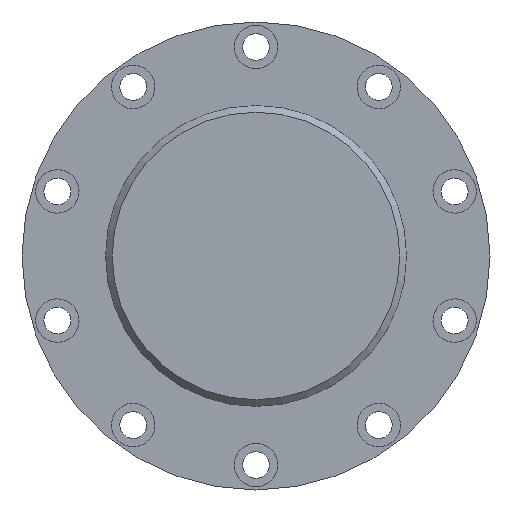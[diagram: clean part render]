
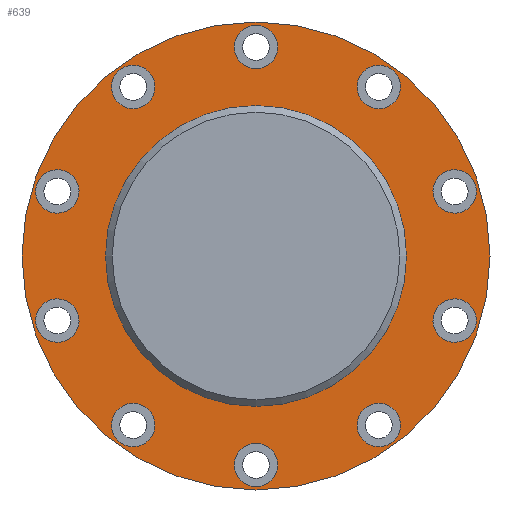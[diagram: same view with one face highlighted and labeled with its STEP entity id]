
A CAD part, front view. The second image highlights one B-rep face of the part: STEP entity #639.
In plain terms, the highlighted planar face has unit normal (0, -1, 0).
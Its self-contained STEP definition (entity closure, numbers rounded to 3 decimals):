
#100=FACE_BOUND('',#206,.T.);
#101=FACE_BOUND('',#207,.T.);
#102=FACE_BOUND('',#208,.T.);
#103=FACE_BOUND('',#209,.T.);
#104=FACE_BOUND('',#210,.T.);
#105=FACE_BOUND('',#211,.T.);
#106=FACE_BOUND('',#212,.T.);
#107=FACE_BOUND('',#213,.T.);
#108=FACE_BOUND('',#214,.T.);
#109=FACE_BOUND('',#215,.T.);
#110=FACE_BOUND('',#216,.T.);
#153=FACE_OUTER_BOUND('',#205,.T.);
#205=EDGE_LOOP('',(#532));
#206=EDGE_LOOP('',(#533));
#207=EDGE_LOOP('',(#534));
#208=EDGE_LOOP('',(#535));
#209=EDGE_LOOP('',(#536));
#210=EDGE_LOOP('',(#537));
#211=EDGE_LOOP('',(#538));
#212=EDGE_LOOP('',(#539));
#213=EDGE_LOOP('',(#540));
#214=EDGE_LOOP('',(#541));
#215=EDGE_LOOP('',(#542));
#216=EDGE_LOOP('',(#543));
#242=CIRCLE('',#675,6.5);
#246=CIRCLE('',#682,6.5);
#250=CIRCLE('',#689,6.5);
#254=CIRCLE('',#696,6.5);
#258=CIRCLE('',#703,6.5);
#262=CIRCLE('',#710,6.5);
#266=CIRCLE('',#717,6.5);
#270=CIRCLE('',#724,6.5);
#274=CIRCLE('',#731,6.5);
#278=CIRCLE('',#738,6.5);
#280=CIRCLE('',#742,70.);
#281=CIRCLE('',#743,45.);
#299=VERTEX_POINT('',#1001);
#303=VERTEX_POINT('',#1014);
#307=VERTEX_POINT('',#1027);
#311=VERTEX_POINT('',#1040);
#315=VERTEX_POINT('',#1053);
#319=VERTEX_POINT('',#1066);
#323=VERTEX_POINT('',#1079);
#327=VERTEX_POINT('',#1092);
#331=VERTEX_POINT('',#1105);
#335=VERTEX_POINT('',#1118);
#337=VERTEX_POINT('',#1126);
#338=VERTEX_POINT('',#1128);
#353=EDGE_CURVE('',#299,#299,#242,.T.);
#359=EDGE_CURVE('',#303,#303,#246,.T.);
#365=EDGE_CURVE('',#307,#307,#250,.T.);
#371=EDGE_CURVE('',#311,#311,#254,.T.);
#377=EDGE_CURVE('',#315,#315,#258,.T.);
#383=EDGE_CURVE('',#319,#319,#262,.T.);
#389=EDGE_CURVE('',#323,#323,#266,.T.);
#395=EDGE_CURVE('',#327,#327,#270,.T.);
#401=EDGE_CURVE('',#331,#331,#274,.T.);
#407=EDGE_CURVE('',#335,#335,#278,.T.);
#411=EDGE_CURVE('',#337,#337,#280,.T.);
#412=EDGE_CURVE('',#338,#338,#281,.T.);
#532=ORIENTED_EDGE('',*,*,#411,.T.);
#533=ORIENTED_EDGE('',*,*,#353,.T.);
#534=ORIENTED_EDGE('',*,*,#359,.T.);
#535=ORIENTED_EDGE('',*,*,#365,.T.);
#536=ORIENTED_EDGE('',*,*,#371,.T.);
#537=ORIENTED_EDGE('',*,*,#377,.T.);
#538=ORIENTED_EDGE('',*,*,#383,.T.);
#539=ORIENTED_EDGE('',*,*,#389,.T.);
#540=ORIENTED_EDGE('',*,*,#395,.T.);
#541=ORIENTED_EDGE('',*,*,#401,.T.);
#542=ORIENTED_EDGE('',*,*,#407,.T.);
#543=ORIENTED_EDGE('',*,*,#412,.F.);
#604=PLANE('',#741);
#639=ADVANCED_FACE('',(#153,#100,#101,#102,#103,#104,#105,#106,#107,#108,
#109,#110),#604,.T.);
#675=AXIS2_PLACEMENT_3D('',#1002,#780,#781);
#682=AXIS2_PLACEMENT_3D('',#1015,#796,#797);
#689=AXIS2_PLACEMENT_3D('',#1028,#812,#813);
#696=AXIS2_PLACEMENT_3D('',#1041,#828,#829);
#703=AXIS2_PLACEMENT_3D('',#1054,#844,#845);
#710=AXIS2_PLACEMENT_3D('',#1067,#860,#861);
#717=AXIS2_PLACEMENT_3D('',#1080,#876,#877);
#724=AXIS2_PLACEMENT_3D('',#1093,#892,#893);
#731=AXIS2_PLACEMENT_3D('',#1106,#908,#909);
#738=AXIS2_PLACEMENT_3D('',#1119,#924,#925);
#741=AXIS2_PLACEMENT_3D('',#1125,#932,#933);
#742=AXIS2_PLACEMENT_3D('',#1127,#934,#935);
#743=AXIS2_PLACEMENT_3D('',#1129,#936,#937);
#780=DIRECTION('center_axis',(0.,1.,0.));
#781=DIRECTION('ref_axis',(0.809,0.,-0.588));
#796=DIRECTION('center_axis',(0.,1.,0.));
#797=DIRECTION('ref_axis',(0.309,0.,-0.951));
#812=DIRECTION('center_axis',(0.,1.,0.));
#813=DIRECTION('ref_axis',(-0.309,0.,-0.951));
#828=DIRECTION('center_axis',(0.,1.,0.));
#829=DIRECTION('ref_axis',(-0.809,0.,-0.588));
#844=DIRECTION('center_axis',(0.,1.,0.));
#845=DIRECTION('ref_axis',(-1.,0.,0.));
#860=DIRECTION('center_axis',(0.,1.,0.));
#861=DIRECTION('ref_axis',(-0.809,0.,0.588));
#876=DIRECTION('center_axis',(0.,1.,0.));
#877=DIRECTION('ref_axis',(-0.309,0.,0.951));
#892=DIRECTION('center_axis',(0.,1.,0.));
#893=DIRECTION('ref_axis',(0.309,0.,0.951));
#908=DIRECTION('center_axis',(0.,1.,0.));
#909=DIRECTION('ref_axis',(0.809,0.,0.588));
#924=DIRECTION('center_axis',(0.,1.,0.));
#925=DIRECTION('ref_axis',(1.,0.,0.));
#932=DIRECTION('center_axis',(0.,-1.,0.));
#933=DIRECTION('ref_axis',(0.,0.,-1.));
#934=DIRECTION('center_axis',(0.,-1.,0.));
#935=DIRECTION('ref_axis',(1.,0.,0.));
#936=DIRECTION('center_axis',(0.,-1.,0.));
#937=DIRECTION('ref_axis',(1.,0.,0.));
#1001=CARTESIAN_POINT('',(31.478,-5.,54.384));
#1002=CARTESIAN_POINT('Origin',(36.737,-5.,50.564));
#1014=CARTESIAN_POINT('',(57.432,-5.,25.495));
#1015=CARTESIAN_POINT('Origin',(59.441,-5.,19.314));
#1027=CARTESIAN_POINT('',(61.45,-5.,-13.132));
#1028=CARTESIAN_POINT('Origin',(59.441,-5.,-19.314));
#1040=CARTESIAN_POINT('',(41.995,-5.,-46.743));
#1041=CARTESIAN_POINT('Origin',(36.737,-5.,-50.564));
#1053=CARTESIAN_POINT('',(6.5,-5.,-62.5));
#1054=CARTESIAN_POINT('Origin',(0.,-5.,-62.5));
#1066=CARTESIAN_POINT('',(-31.478,-5.,-54.384));
#1067=CARTESIAN_POINT('Origin',(-36.737,-5.,-50.564));
#1079=CARTESIAN_POINT('',(-57.432,-5.,-25.495));
#1080=CARTESIAN_POINT('Origin',(-59.441,-5.,-19.314));
#1092=CARTESIAN_POINT('',(-61.45,-5.,13.132));
#1093=CARTESIAN_POINT('Origin',(-59.441,-5.,19.314));
#1105=CARTESIAN_POINT('',(-41.995,-5.,46.743));
#1106=CARTESIAN_POINT('Origin',(-36.737,-5.,50.564));
#1118=CARTESIAN_POINT('',(-6.5,-5.,62.5));
#1119=CARTESIAN_POINT('Origin',(0.,-5.,62.5));
#1125=CARTESIAN_POINT('Origin',(45.,-5.,0.));
#1126=CARTESIAN_POINT('',(-70.,-5.,0.));
#1127=CARTESIAN_POINT('Origin',(0.,-5.,0.));
#1128=CARTESIAN_POINT('',(-45.,-5.,0.));
#1129=CARTESIAN_POINT('Origin',(0.,-5.,0.));
